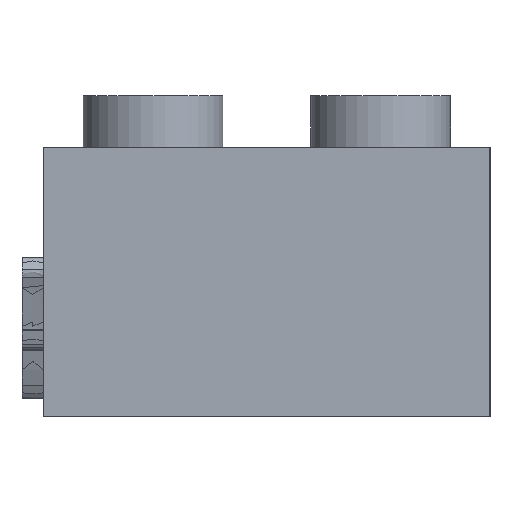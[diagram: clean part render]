
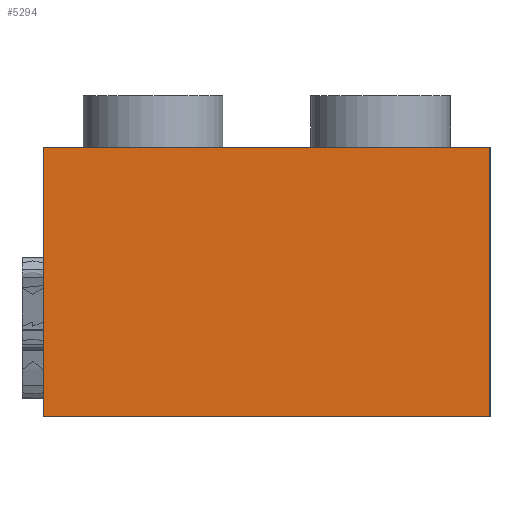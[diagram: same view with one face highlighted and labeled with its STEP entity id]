
A CAD part, left-side view. The second image highlights one B-rep face of the part: STEP entity #5294.
In plain terms, the highlighted planar face has unit normal (-1, 0, 0).
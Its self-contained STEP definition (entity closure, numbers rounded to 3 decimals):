
#231 = PLANE('',#232);
#232 = AXIS2_PLACEMENT_3D('',#233,#234,#235);
#233 = CARTESIAN_POINT('',(29.681,15.799,1.982
    ));
#234 = DIRECTION('',(0.,1.,0.));
#235 = DIRECTION('',(0.,-0.,1.));
#4246 = VERTEX_POINT('',#4247);
#4247 = CARTESIAN_POINT('',(0.,15.799,0.));
#4263 = PLANE('',#4264);
#4264 = AXIS2_PLACEMENT_3D('',#4265,#4266,#4267);
#4265 = CARTESIAN_POINT('',(15.875,7.899,0.));
#4266 = DIRECTION('',(0.,0.,1.));
#4267 = DIRECTION('',(0.,1.,0.));
#4275 = EDGE_CURVE('',#4246,#4276,#4278,.T.);
#4276 = VERTEX_POINT('',#4277);
#4277 = CARTESIAN_POINT('',(0.,15.799,
    9.525));
#4278 = SURFACE_CURVE('',#4279,(#4283,#4290),.PCURVE_S1.);
#4279 = LINE('',#4280,#4281);
#4280 = CARTESIAN_POINT('',(0.,15.799,0.));
#4281 = VECTOR('',#4282,1.);
#4282 = DIRECTION('',(0.,0.,1.));
#4283 = PCURVE('',#231,#4284);
#4284 = DEFINITIONAL_REPRESENTATION('',(#4285),#4289);
#4285 = LINE('',#4286,#4287);
#4286 = CARTESIAN_POINT('',(-1.982,-29.681));
#4287 = VECTOR('',#4288,1.);
#4288 = DIRECTION('',(1.,0.));
#4289 = ( GEOMETRIC_REPRESENTATION_CONTEXT(2) 
PARAMETRIC_REPRESENTATION_CONTEXT() REPRESENTATION_CONTEXT('2D SPACE',''
  ) );
#4290 = PCURVE('',#4291,#4296);
#4291 = PLANE('',#4292);
#4292 = AXIS2_PLACEMENT_3D('',#4293,#4294,#4295);
#4293 = CARTESIAN_POINT('',(0.,7.899,
    4.762));
#4294 = DIRECTION('',(1.,0.,0.));
#4295 = DIRECTION('',(0.,0.,1.));
#4296 = DEFINITIONAL_REPRESENTATION('',(#4297),#4301);
#4297 = LINE('',#4298,#4299);
#4298 = CARTESIAN_POINT('',(-4.762,-7.899));
#4299 = VECTOR('',#4300,1.);
#4300 = DIRECTION('',(1.,0.));
#4301 = ( GEOMETRIC_REPRESENTATION_CONTEXT(2) 
PARAMETRIC_REPRESENTATION_CONTEXT() REPRESENTATION_CONTEXT('2D SPACE',''
  ) );
#4319 = PLANE('',#4320);
#4320 = AXIS2_PLACEMENT_3D('',#4321,#4322,#4323);
#4321 = CARTESIAN_POINT('',(30.292,12.263,
    9.525));
#4322 = DIRECTION('',(-0.,0.,1.));
#4323 = DIRECTION('',(1.,0.,0.));
#4421 = PLANE('',#4422);
#4422 = AXIS2_PLACEMENT_3D('',#4423,#4424,#4425);
#4423 = CARTESIAN_POINT('',(15.875,0.,4.762));
#4424 = DIRECTION('',(0.,-1.,0.));
#4425 = DIRECTION('',(-0.,0.,1.));
#4437 = VERTEX_POINT('',#4438);
#4438 = CARTESIAN_POINT('',(0.,0.,
    0.));
#4461 = VERTEX_POINT('',#4462);
#4462 = CARTESIAN_POINT('',(0.,0.,9.525));
#4483 = EDGE_CURVE('',#4461,#4437,#4484,.T.);
#4484 = SURFACE_CURVE('',#4485,(#4489,#4496),.PCURVE_S1.);
#4485 = LINE('',#4486,#4487);
#4486 = CARTESIAN_POINT('',(0.,0.,9.525));
#4487 = VECTOR('',#4488,1.);
#4488 = DIRECTION('',(0.,0.,-1.));
#4489 = PCURVE('',#4421,#4490);
#4490 = DEFINITIONAL_REPRESENTATION('',(#4491),#4495);
#4491 = LINE('',#4492,#4493);
#4492 = CARTESIAN_POINT('',(4.762,15.875));
#4493 = VECTOR('',#4494,1.);
#4494 = DIRECTION('',(-1.,0.));
#4495 = ( GEOMETRIC_REPRESENTATION_CONTEXT(2) 
PARAMETRIC_REPRESENTATION_CONTEXT() REPRESENTATION_CONTEXT('2D SPACE',''
  ) );
#4496 = PCURVE('',#4291,#4497);
#4497 = DEFINITIONAL_REPRESENTATION('',(#4498),#4502);
#4498 = LINE('',#4499,#4500);
#4499 = CARTESIAN_POINT('',(4.762,7.899));
#4500 = VECTOR('',#4501,1.);
#4501 = DIRECTION('',(-1.,0.));
#4502 = ( GEOMETRIC_REPRESENTATION_CONTEXT(2) 
PARAMETRIC_REPRESENTATION_CONTEXT() REPRESENTATION_CONTEXT('2D SPACE',''
  ) );
#4720 = EDGE_CURVE('',#4276,#4461,#4721,.T.);
#4721 = SURFACE_CURVE('',#4722,(#4726,#4733),.PCURVE_S1.);
#4722 = LINE('',#4723,#4724);
#4723 = CARTESIAN_POINT('',(0.,15.799,
    9.525));
#4724 = VECTOR('',#4725,1.);
#4725 = DIRECTION('',(0.,-1.,0.));
#4726 = PCURVE('',#4319,#4727);
#4727 = DEFINITIONAL_REPRESENTATION('',(#4728),#4732);
#4728 = LINE('',#4729,#4730);
#4729 = CARTESIAN_POINT('',(-30.292,3.536));
#4730 = VECTOR('',#4731,1.);
#4731 = DIRECTION('',(0.,-1.));
#4732 = ( GEOMETRIC_REPRESENTATION_CONTEXT(2) 
PARAMETRIC_REPRESENTATION_CONTEXT() REPRESENTATION_CONTEXT('2D SPACE',''
  ) );
#4733 = PCURVE('',#4291,#4734);
#4734 = DEFINITIONAL_REPRESENTATION('',(#4735),#4739);
#4735 = LINE('',#4736,#4737);
#4736 = CARTESIAN_POINT('',(4.762,-7.899));
#4737 = VECTOR('',#4738,1.);
#4738 = DIRECTION('',(0.,1.));
#4739 = ( GEOMETRIC_REPRESENTATION_CONTEXT(2) 
PARAMETRIC_REPRESENTATION_CONTEXT() REPRESENTATION_CONTEXT('2D SPACE',''
  ) );
#5294 = ADVANCED_FACE('',(#5295),#4291,.F.);
#5295 = FACE_BOUND('',#5296,.T.);
#5296 = EDGE_LOOP('',(#5297,#5318,#5319,#5320));
#5297 = ORIENTED_EDGE('',*,*,#5298,.F.);
#5298 = EDGE_CURVE('',#4437,#4246,#5299,.T.);
#5299 = SURFACE_CURVE('',#5300,(#5304,#5311),.PCURVE_S1.);
#5300 = LINE('',#5301,#5302);
#5301 = CARTESIAN_POINT('',(0.,0.,
    0.));
#5302 = VECTOR('',#5303,1.);
#5303 = DIRECTION('',(0.,1.,0.));
#5304 = PCURVE('',#4291,#5305);
#5305 = DEFINITIONAL_REPRESENTATION('',(#5306),#5310);
#5306 = LINE('',#5307,#5308);
#5307 = CARTESIAN_POINT('',(-4.762,7.899));
#5308 = VECTOR('',#5309,1.);
#5309 = DIRECTION('',(0.,-1.));
#5310 = ( GEOMETRIC_REPRESENTATION_CONTEXT(2) 
PARAMETRIC_REPRESENTATION_CONTEXT() REPRESENTATION_CONTEXT('2D SPACE',''
  ) );
#5311 = PCURVE('',#4263,#5312);
#5312 = DEFINITIONAL_REPRESENTATION('',(#5313),#5317);
#5313 = LINE('',#5314,#5315);
#5314 = CARTESIAN_POINT('',(-7.899,15.875));
#5315 = VECTOR('',#5316,1.);
#5316 = DIRECTION('',(1.,0.));
#5317 = ( GEOMETRIC_REPRESENTATION_CONTEXT(2) 
PARAMETRIC_REPRESENTATION_CONTEXT() REPRESENTATION_CONTEXT('2D SPACE',''
  ) );
#5318 = ORIENTED_EDGE('',*,*,#4483,.F.);
#5319 = ORIENTED_EDGE('',*,*,#4720,.F.);
#5320 = ORIENTED_EDGE('',*,*,#4275,.F.);
